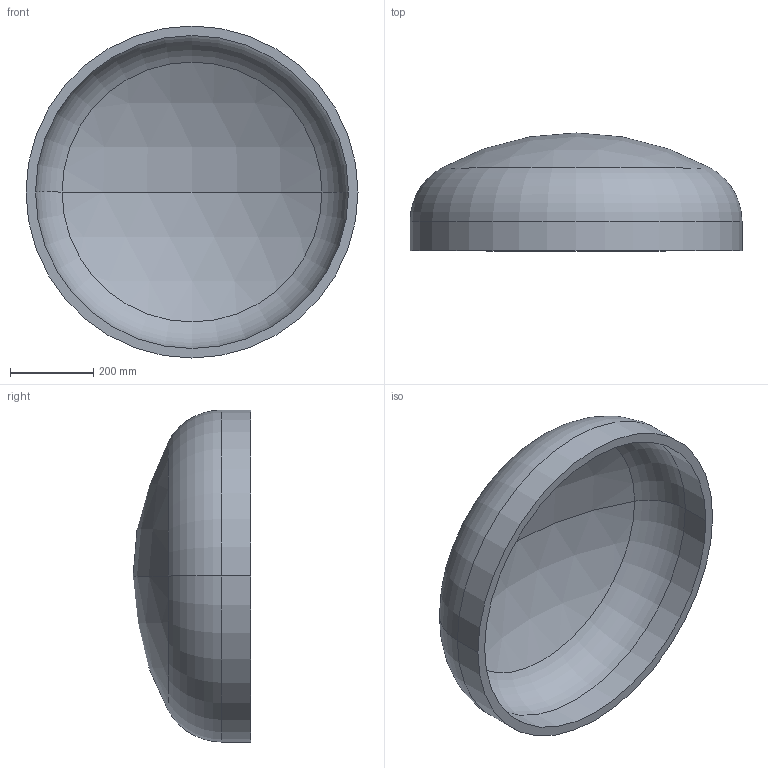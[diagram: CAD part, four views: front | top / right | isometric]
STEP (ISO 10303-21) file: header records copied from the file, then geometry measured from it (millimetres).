
FILE_DESCRIPTION (( 'STEP AP203' ), '1' );
FILE_NAME ('DIN 28013 Korbbogenform_-_Boden DIN 28013 - 800 x 70 - I - s=23.step', '2016-07-01T08:14:10', ( '' ), ( '' ), 'SwSTEP 2.0', 'SolidWorks 2013', '' );
FILE_SCHEMA (( 'CONFIG_CONTROL_DESIGN' ));
Length unit declared in the file: millimetre
Products named in the file (1): DIN 28013 Korbbogenform_-_Boden DIN 28013 - 800 x 70 - I - s=23
Bounding box: 800 x 283.87 x 800 mm (x, y, z)
Volume: 19396310 mm3; surface area: 1743886.5 mm2
Topology: 1 solids, 1 shells, 13 faces, 24 edges, 14 vertices
Faces by surface type: torus 4, cylinder 4, sphere 4, plane 1
Entity records: 407 total; most frequent: DIRECTION 72, CARTESIAN_POINT 52, ORIENTED_EDGE 48, AXIS2_PLACEMENT_3D 34, EDGE_CURVE 24, CIRCLE 20, EDGE_LOOP 14, VERTEX_POINT 14
